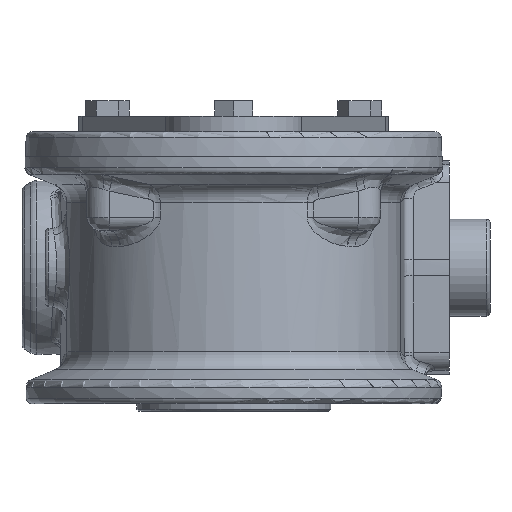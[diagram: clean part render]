
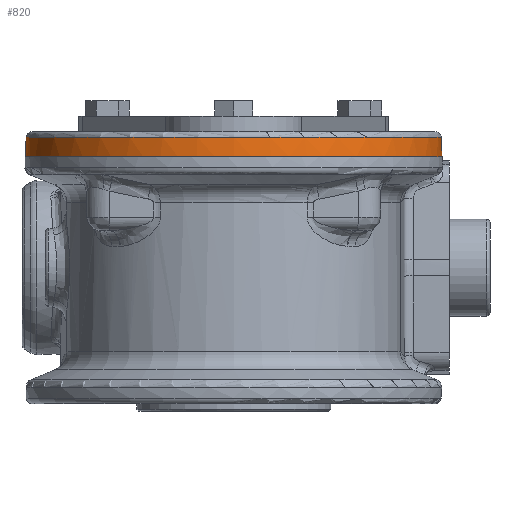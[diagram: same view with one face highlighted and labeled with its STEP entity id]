
A CAD part, front view. The second image highlights one B-rep face of the part: STEP entity #820.
In plain terms, the highlighted conical face has half-angle 3 degrees and reference radius 53.75 mm.
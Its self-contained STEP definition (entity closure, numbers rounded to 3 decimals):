
#820 = ADVANCED_FACE( '', ( #1838, #1839 ), #1840, .T. );
#1838 = FACE_BOUND( '', #4224, .T. );
#1839 = FACE_OUTER_BOUND( '', #4225, .T. );
#1840 = CONICAL_SURFACE( '', #4226, 53.75, 0.052 );
#4224 = EDGE_LOOP( '', ( #6885 ) );
#4225 = EDGE_LOOP( '', ( #6886 ) );
#4226 = AXIS2_PLACEMENT_3D( '', #6887, #6888, #6889 );
#6885 = ORIENTED_EDGE( '', *, *, #7769, .T. );
#6886 = ORIENTED_EDGE( '', *, *, #7882, .F. );
#6887 = CARTESIAN_POINT( '', ( 0., 0., 27.5 ) );
#6888 = DIRECTION( '', ( 0., 0., -1. ) );
#6889 = DIRECTION( '', ( 0., -1., 0. ) );
#7769 = EDGE_CURVE( '', #8813, #8813, #8814, .T. );
#7882 = EDGE_CURVE( '', #9010, #9010, #9011, .T. );
#8813 = VERTEX_POINT( '', #10462 );
#8814 = CIRCLE( '', #10463, 53.431 );
#9010 = VERTEX_POINT( '', #10871 );
#9011 = CIRCLE( '', #10872, 53.698 );
#10462 = CARTESIAN_POINT( '', ( 0., -53.431, 33.579 ) );
#10463 = AXIS2_PLACEMENT_3D( '', #14027, #14028, #14029 );
#10871 = CARTESIAN_POINT( '', ( 0., -53.698, 28.5 ) );
#10872 = AXIS2_PLACEMENT_3D( '', #14186, #14187, #14188 );
#14027 = CARTESIAN_POINT( '', ( 0., 0., 33.579 ) );
#14028 = DIRECTION( '', ( 0., 0., -1. ) );
#14029 = DIRECTION( '', ( 0., -1., 0. ) );
#14186 = CARTESIAN_POINT( '', ( 0., 0., 28.5 ) );
#14187 = DIRECTION( '', ( 0., 0., -1. ) );
#14188 = DIRECTION( '', ( 0., -1., 0. ) );
